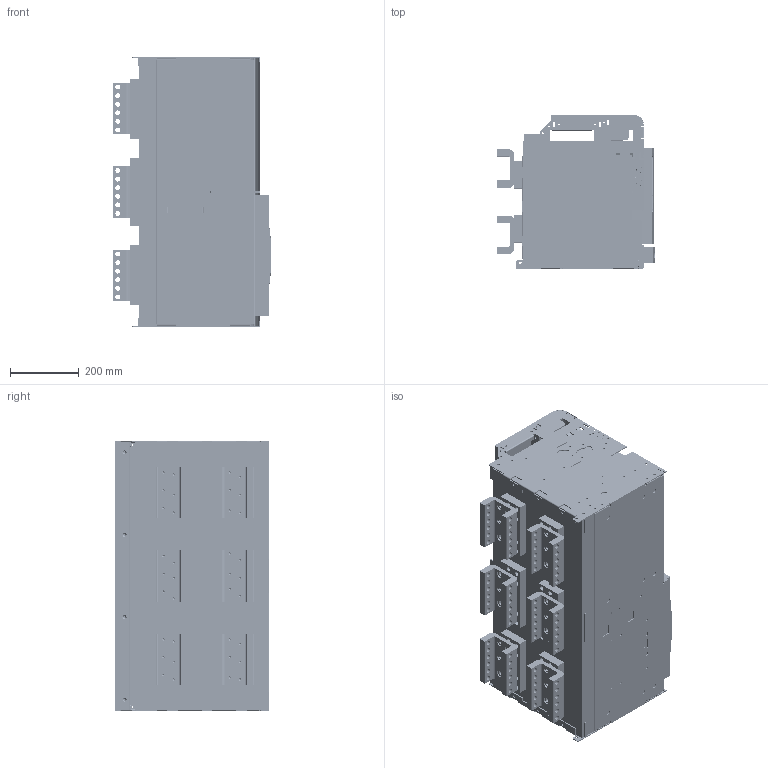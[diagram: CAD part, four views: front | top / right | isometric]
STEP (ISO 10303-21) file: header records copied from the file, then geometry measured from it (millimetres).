
FILE_DESCRIPTION (( 'STEP AP214' ), '1' );
FILE_NAME ('OptiMat A-S6-B-6300-3P-D-H.STEP', '2025-02-10T11:16:54', ( '' ), ( '' ), 'SwSTEP 2.0', 'SolidWorks 2018', '' );
FILE_SCHEMA (( 'AUTOMOTIVE_DESIGN' ));
Length unit declared in the file: millimetre
Products named in the file (1): OptiMat A-S6-B-6300-3P-D-H
Bounding box: 462.5 x 447.5 x 786 mm (x, y, z)
Volume: 103106309.9 mm3; surface area: 3203234.5 mm2
Topology: 10 solids, 79 shells, 5426 faces, 13867 edges, 8908 vertices
Faces by surface type: plane 2544, cylinder 2179, cone 334, bspline 189, torus 140, sphere 40
Entity records: 237584 total; most frequent: CARTESIAN_POINT 48430, DIRECTION 28046, ORIENTED_EDGE 27522, EDGE_CURVE 13761, AXIS2_PLACEMENT_3D 9987, VERTEX_POINT 8902, LINE 8072, VECTOR 8072
